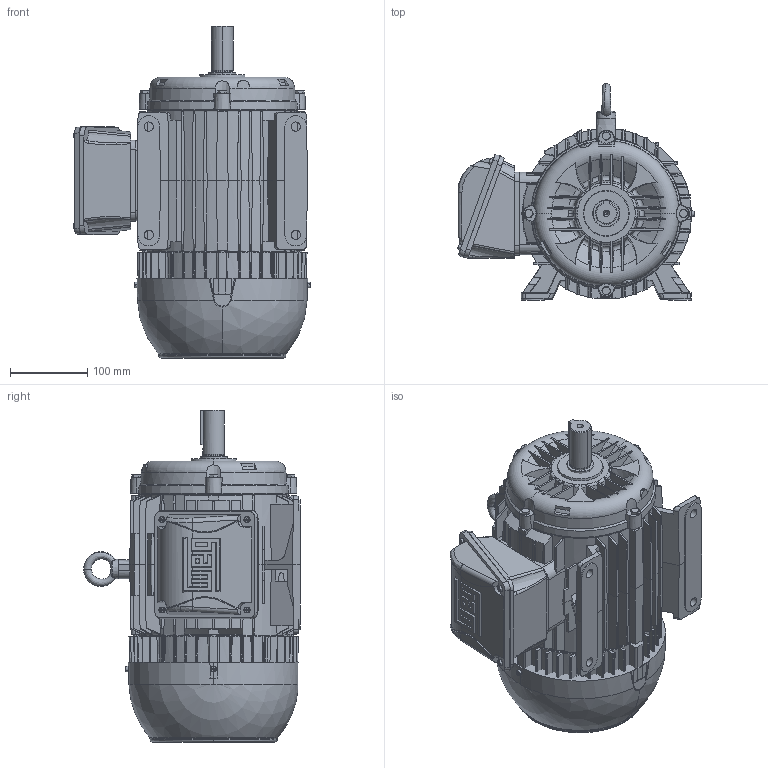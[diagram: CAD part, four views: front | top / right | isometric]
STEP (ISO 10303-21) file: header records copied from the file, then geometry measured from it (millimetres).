
FILE_DESCRIPTION (( 'STEP AP203' ), '1' );
FILE_NAME ('L112M_LEFT.STEP', '2020-02-11T13:54:23', ( 'TI WEG' ), ( 'WEG Equipamentos Eletricos S.A' ), 'SwSTEP 2.0', 'SolidWorks 2018', '' );
FILE_SCHEMA (( 'CONFIG_CONTROL_DESIGN' ));
Length unit declared in the file: millimetre
Products named in the file (1): L112M_LEFT
Bounding box: 305.97 x 280 x 429.1 mm (x, y, z)
Volume: 14253181.9 mm3; surface area: 886575.2 mm2
Topology: 24 solids, 24 shells, 2792 faces, 7019 edges, 4482 vertices
Faces by surface type: plane 1834, cone 339, cylinder 286, bspline 248, torus 81, sphere 4
Entity records: 97251 total; most frequent: CARTESIAN_POINT 33975, ORIENTED_EDGE 14018, DIRECTION 11600, EDGE_CURVE 7009, VERTEX_POINT 4482, LINE 4076, VECTOR 4076, AXIS2_PLACEMENT_3D 3762
